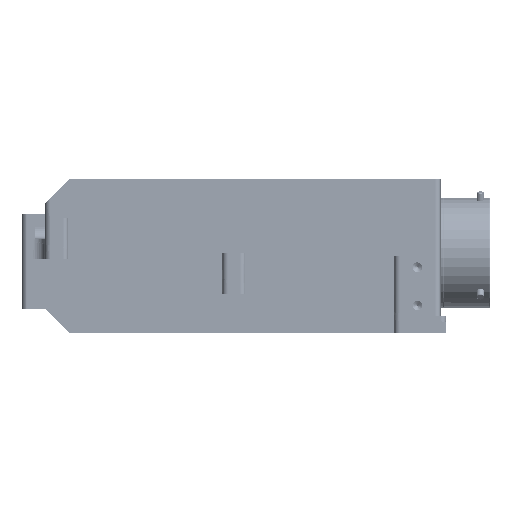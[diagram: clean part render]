
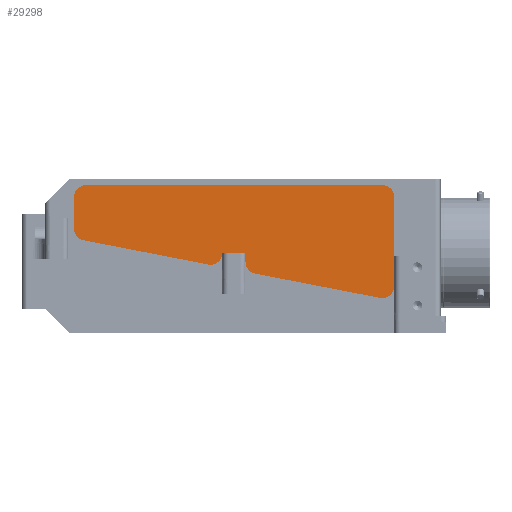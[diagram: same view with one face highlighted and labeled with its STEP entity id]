
A CAD part, front view. The second image highlights one B-rep face of the part: STEP entity #29298.
In plain terms, the highlighted planar face has unit normal (0, -1, 0).
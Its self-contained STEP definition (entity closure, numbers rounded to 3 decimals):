
#2653=CIRCLE('',#84103,3.1);
#2654=CIRCLE('',#84106,3.1);
#2655=CIRCLE('',#84107,3.1);
#2656=CIRCLE('',#84108,3.1);
#2657=CIRCLE('',#84109,3.1);
#2658=CIRCLE('',#84110,3.1);
#29298=ADVANCED_FACE('',(#35113),#33033,.F.);
#33033=PLANE('',#84111);
#35113=FACE_OUTER_BOUND('',#37840,.T.);
#37840=EDGE_LOOP('',(#53755,#53756,#53757,#53758,#53759,#53760,#53761,#53762,
#53763,#53764,#53765,#53766,#53767));
#43554=LINE('',#108433,#47367);
#43560=LINE('',#108443,#47373);
#43564=LINE('',#108452,#47377);
#43824=LINE('',#110411,#47639);
#43828=LINE('',#110419,#47643);
#43831=LINE('',#110425,#47646);
#43834=LINE('',#110433,#47649);
#47367=VECTOR('',#90538,1.);
#47373=VECTOR('',#90546,1.);
#47377=VECTOR('',#90554,1.);
#47639=VECTOR('',#91790,1.);
#47643=VECTOR('',#91796,1.);
#47646=VECTOR('',#91801,1.);
#47649=VECTOR('',#91810,1.);
#53755=ORIENTED_EDGE('',*,*,#74392,.T.);
#53756=ORIENTED_EDGE('',*,*,#74394,.T.);
#53757=ORIENTED_EDGE('',*,*,#73961,.F.);
#53758=ORIENTED_EDGE('',*,*,#74395,.T.);
#53759=ORIENTED_EDGE('',*,*,#74388,.T.);
#53760=ORIENTED_EDGE('',*,*,#74396,.T.);
#53761=ORIENTED_EDGE('',*,*,#74385,.T.);
#53762=ORIENTED_EDGE('',*,*,#74397,.T.);
#53763=ORIENTED_EDGE('',*,*,#74381,.T.);
#53764=ORIENTED_EDGE('',*,*,#74390,.T.);
#53765=ORIENTED_EDGE('',*,*,#73972,.F.);
#53766=ORIENTED_EDGE('',*,*,#73967,.F.);
#53767=ORIENTED_EDGE('',*,*,#74398,.T.);
#67756=VERTEX_POINT('',#108434);
#67757=VERTEX_POINT('',#108435);
#67758=VERTEX_POINT('',#108442);
#67759=VERTEX_POINT('',#108444);
#67761=VERTEX_POINT('',#108450);
#67964=VERTEX_POINT('',#110412);
#67965=VERTEX_POINT('',#110413);
#67966=VERTEX_POINT('',#110418);
#67967=VERTEX_POINT('',#110420);
#67968=VERTEX_POINT('',#110424);
#67969=VERTEX_POINT('',#110426);
#67970=VERTEX_POINT('',#110432);
#67971=VERTEX_POINT('',#110434);
#73961=EDGE_CURVE('',#67756,#67757,#43554,.T.);
#73967=EDGE_CURVE('',#67758,#67759,#43560,.T.);
#73972=EDGE_CURVE('',#67759,#67761,#43564,.T.);
#74381=EDGE_CURVE('',#67964,#67965,#43824,.T.);
#74385=EDGE_CURVE('',#67967,#67966,#43828,.T.);
#74388=EDGE_CURVE('',#67969,#67968,#43831,.T.);
#74390=EDGE_CURVE('',#67965,#67761,#2653,.T.);
#74392=EDGE_CURVE('',#67971,#67970,#43834,.T.);
#74394=EDGE_CURVE('',#67970,#67757,#2654,.T.);
#74395=EDGE_CURVE('',#67756,#67969,#2655,.T.);
#74396=EDGE_CURVE('',#67968,#67967,#2656,.T.);
#74397=EDGE_CURVE('',#67966,#67964,#2657,.T.);
#74398=EDGE_CURVE('',#67758,#67971,#2658,.T.);
#84103=AXIS2_PLACEMENT_3D('',#110429,#91805,#91806);
#84106=AXIS2_PLACEMENT_3D('',#110437,#91814,#91815);
#84107=AXIS2_PLACEMENT_3D('',#110438,#91816,#91817);
#84108=AXIS2_PLACEMENT_3D('',#110439,#91818,#91819);
#84109=AXIS2_PLACEMENT_3D('',#110440,#91820,#91821);
#84110=AXIS2_PLACEMENT_3D('',#110441,#91822,#91823);
#84111=AXIS2_PLACEMENT_3D('',#110442,#91824,#91825);
#90538=DIRECTION('',(0.,0.,-1.));
#90546=DIRECTION('',(0.,0.,1.));
#90554=DIRECTION('',(-1.,0.,0.));
#91790=DIRECTION('',(0.982,0.,-0.191));
#91796=DIRECTION('',(0.,0.,-1.));
#91801=DIRECTION('',(-1.,0.,0.));
#91805=DIRECTION('',(0.,-1.,0.));
#91806=DIRECTION('',(1.,0.,0.));
#91810=DIRECTION('',(0.982,0.,-0.191));
#91814=DIRECTION('',(0.,-1.,0.));
#91815=DIRECTION('',(0.,0.,1.));
#91816=DIRECTION('',(0.,-1.,0.));
#91817=DIRECTION('',(0.,0.,1.));
#91818=DIRECTION('',(0.,-1.,0.));
#91819=DIRECTION('',(0.,0.,1.));
#91820=DIRECTION('',(0.,-1.,0.));
#91821=DIRECTION('',(0.,0.,1.));
#91822=DIRECTION('',(0.,-1.,0.));
#91823=DIRECTION('',(0.,0.,1.));
#91824=DIRECTION('',(0.,1.,0.));
#91825=DIRECTION('',(0.,0.,1.));
#108433=CARTESIAN_POINT('',(41.675,-76.3,35.93));
#108434=CARTESIAN_POINT('',(41.675,-76.3,32.83));
#108435=CARTESIAN_POINT('',(41.675,-76.3,9.693));
#108442=CARTESIAN_POINT('',(3.,-76.3,16.006));
#108443=CARTESIAN_POINT('',(3.,-76.3,13.45));
#108444=CARTESIAN_POINT('',(3.,-76.3,18.422));
#108450=CARTESIAN_POINT('',(-3.,-76.3,18.422));
#108452=CARTESIAN_POINT('',(3.,-76.3,18.422));
#110411=CARTESIAN_POINT('',(-6.691,-76.3,15.334));
#110412=CARTESIAN_POINT('',(-39.067,-76.3,21.627));
#110413=CARTESIAN_POINT('',(-6.691,-76.3,15.334));
#110418=CARTESIAN_POINT('',(-41.575,-76.3,24.67));
#110419=CARTESIAN_POINT('',(-41.575,-76.3,22.115));
#110420=CARTESIAN_POINT('',(-41.575,-76.3,32.83));
#110424=CARTESIAN_POINT('',(-38.475,-76.3,35.93));
#110425=CARTESIAN_POINT('',(-41.575,-76.3,35.93));
#110426=CARTESIAN_POINT('',(38.575,-76.3,35.93));
#110429=CARTESIAN_POINT('',(-6.1,-76.3,18.377));
#110432=CARTESIAN_POINT('',(37.983,-76.3,6.65));
#110433=CARTESIAN_POINT('',(40.876,-76.3,6.088));
#110434=CARTESIAN_POINT('',(5.508,-76.3,12.963));
#110437=CARTESIAN_POINT('',(38.575,-76.3,9.693));
#110438=CARTESIAN_POINT('',(38.575,-76.3,32.83));
#110439=CARTESIAN_POINT('',(-38.475,-76.3,32.83));
#110440=CARTESIAN_POINT('',(-38.475,-76.3,24.67));
#110441=CARTESIAN_POINT('',(6.1,-76.3,16.006));
#110442=CARTESIAN_POINT('',(38.575,-76.3,8.165));
